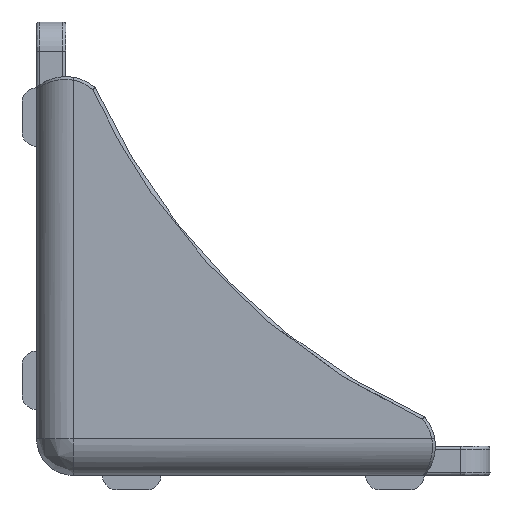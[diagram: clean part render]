
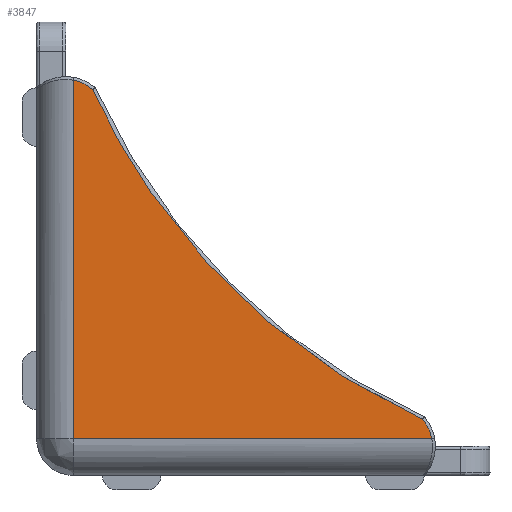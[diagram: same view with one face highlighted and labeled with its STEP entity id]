
A CAD part, front view. The second image highlights one B-rep face of the part: STEP entity #3847.
In plain terms, the highlighted planar face has unit normal (0, -1, 0).
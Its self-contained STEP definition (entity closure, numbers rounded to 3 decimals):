
#29 = EDGE_CURVE ( 'NONE', #4639, #4632, #4913, .T. ) ;
#806 = CARTESIAN_POINT ( 'NONE',  ( 11.519, -15., 2.5 ) ) ;
#807 = CARTESIAN_POINT ( 'NONE',  ( 11.474, -15., 2.747 ) ) ;
#814 = CARTESIAN_POINT ( 'NONE',  ( 8.404, -15., 4.959 ) ) ;
#816 = CARTESIAN_POINT ( 'NONE',  ( 11.397, -15., 2.985 ) ) ;
#817 = CARTESIAN_POINT ( 'NONE',  ( 11.18, -15., 3.437 ) ) ;
#818 = CARTESIAN_POINT ( 'NONE',  ( 11.043, -15., 3.645 ) ) ;
#819 = CARTESIAN_POINT ( 'NONE',  ( 10.878, -15., 3.836 ) ) ;
#824 = CARTESIAN_POINT ( 'NONE',  ( 10.878, -15., 3.836 ) ) ;
#833 = CARTESIAN_POINT ( 'NONE',  ( -11.854, -15., 26.543 ) ) ;
#835 = CARTESIAN_POINT ( 'NONE',  ( 6.037, -15., 6.302 ) ) ;
#836 = CARTESIAN_POINT ( 'NONE',  ( 1.572, -15., 9.395 ) ) ;
#837 = CARTESIAN_POINT ( 'NONE',  ( -0.519, -15., 11.14 ) ) ;
#838 = CARTESIAN_POINT ( 'NONE',  ( -4.36, -15., 14.981 ) ) ;
#839 = CARTESIAN_POINT ( 'NONE',  ( -6.105, -15., 17.072 ) ) ;
#840 = CARTESIAN_POINT ( 'NONE',  ( -9.198, -15., 21.537 ) ) ;
#841 = CARTESIAN_POINT ( 'NONE',  ( -10.541, -15., 23.904 ) ) ;
#842 = CARTESIAN_POINT ( 'NONE',  ( -11.664, -15., 26.378 ) ) ;
#843 = CARTESIAN_POINT ( 'NONE',  ( -13., -15., 14.759 ) ) ;
#848 = CARTESIAN_POINT ( 'NONE',  ( -11.664, -15., 26.378 ) ) ;
#849 = DIRECTION ( 'NONE',  ( 0., 0., -1. ) ) ;
#850 = CARTESIAN_POINT ( 'NONE',  ( -12.063, -15., 26.68 ) ) ;
#851 = CARTESIAN_POINT ( 'NONE',  ( -12.515, -15., 26.897 ) ) ;
#852 = CARTESIAN_POINT ( 'NONE',  ( -12.752, -15., 26.974 ) ) ;
#853 = CARTESIAN_POINT ( 'NONE',  ( -13., -15., 27.019 ) ) ;
#2210 = CARTESIAN_POINT ( 'NONE',  ( -13.49, -15., 2.01 ) ) ;
#2211 = PLANE ( 'NONE',  #2862 ) ;
#2228 = DIRECTION ( 'NONE',  ( 0., -1., 0. ) ) ;
#2229 = DIRECTION ( 'NONE',  ( 1., 0., 0. ) ) ;
#2723 = CARTESIAN_POINT ( 'NONE',  ( -11.664, -15., 26.378 ) ) ;
#2731 = CARTESIAN_POINT ( 'NONE',  ( 11.519, -15., 2.5 ) ) ;
#2732 = CARTESIAN_POINT ( 'NONE',  ( 10.878, -15., 3.836 ) ) ;
#2738 = CARTESIAN_POINT ( 'NONE',  ( -13., -15., 2.5 ) ) ;
#2788 = CARTESIAN_POINT ( 'NONE',  ( -13., -15., 27.019 ) ) ;
#2862 = AXIS2_PLACEMENT_3D ( 'NONE', #2210, #2228, #2229 ) ;
#3321 = EDGE_CURVE ( 'NONE', #4632, #4633, #3433, .T. ) ;
#3325 = EDGE_CURVE ( 'NONE', #4633, #4624, #3436, .T. ) ;
#3327 = EDGE_CURVE ( 'NONE', #4624, #4891, #3438, .T. ) ;
#3330 = EDGE_CURVE ( 'NONE', #4891, #4639, #5281, .T. ) ;
#3433 = B_SPLINE_CURVE_WITH_KNOTS ( 'NONE', 3,
 ( #806, #807, #816, #817, #818, #819 ),
 .UNSPECIFIED., .F., .F.,
 ( 4, 2, 4 ),
 ( 0., 0.5, 1. ),
 .UNSPECIFIED. ) ;
#3436 = B_SPLINE_CURVE_WITH_KNOTS ( 'NONE', 3,
 ( #824, #814, #835, #836, #837, #838, #839, #840, #841, #842 ),
 .UNSPECIFIED., .F., .F.,
 ( 4, 2, 2, 2, 4 ),
 ( 0., 0.25, 0.5, 0.75, 1. ),
 .UNSPECIFIED. ) ;
#3438 = B_SPLINE_CURVE_WITH_KNOTS ( 'NONE', 3,
 ( #848, #833, #850, #851, #852, #853 ),
 .UNSPECIFIED., .F., .F.,
 ( 4, 2, 4 ),
 ( 0., 0.5, 1. ),
 .UNSPECIFIED. ) ;
#3847 = ADVANCED_FACE ( 'NONE', ( #5455 ), #2211, .T. ) ;
#4079 = EDGE_LOOP ( 'NONE', ( #4735, #4736, #4737, #4738, #4739 ) ) ;
#4624 = VERTEX_POINT ( 'NONE', #2723 ) ;
#4632 = VERTEX_POINT ( 'NONE', #2731 ) ;
#4633 = VERTEX_POINT ( 'NONE', #2732 ) ;
#4639 = VERTEX_POINT ( 'NONE', #2738 ) ;
#4735 = ORIENTED_EDGE ( 'NONE', *, *, #3330, .T. ) ;
#4736 = ORIENTED_EDGE ( 'NONE', *, *, #29, .T. ) ;
#4737 = ORIENTED_EDGE ( 'NONE', *, *, #3321, .T. ) ;
#4738 = ORIENTED_EDGE ( 'NONE', *, *, #3325, .T. ) ;
#4739 = ORIENTED_EDGE ( 'NONE', *, *, #3327, .T. ) ;
#4891 = VERTEX_POINT ( 'NONE', #2788 ) ;
#4913 = LINE ( 'NONE', #5540, #4916 ) ;
#4916 = VECTOR ( 'NONE', #5551, 1000. ) ;
#5281 = LINE ( 'NONE', #843, #5283 ) ;
#5283 = VECTOR ( 'NONE', #849, 1000. ) ;
#5455 = FACE_OUTER_BOUND ( 'NONE', #4079, .T. ) ;
#5540 = CARTESIAN_POINT ( 'NONE',  ( -0.718, -15., 2.5 ) ) ;
#5551 = DIRECTION ( 'NONE',  ( 1., 0., 0. ) ) ;
